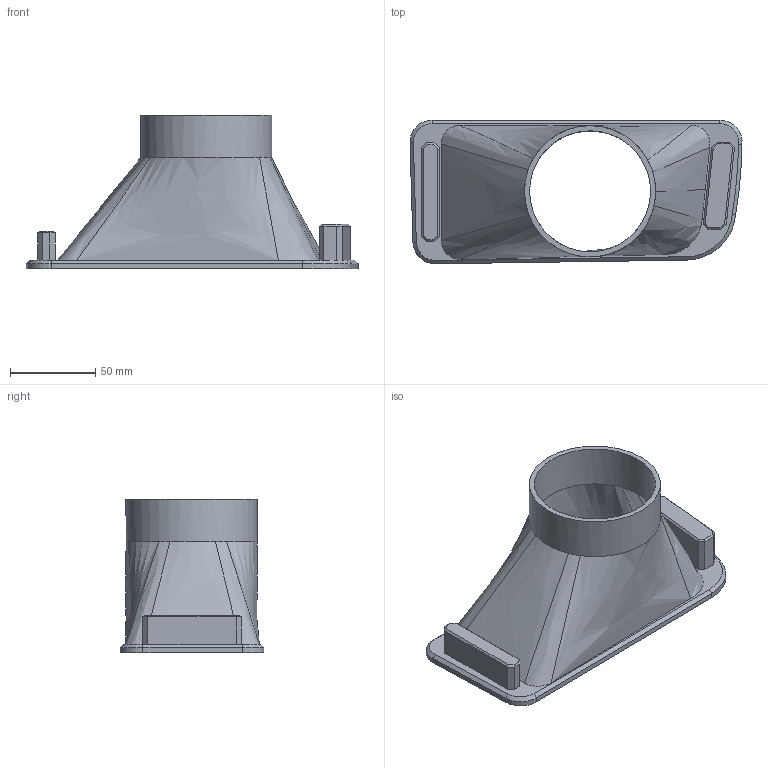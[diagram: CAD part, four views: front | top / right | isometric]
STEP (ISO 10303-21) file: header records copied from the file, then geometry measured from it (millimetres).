
FILE_DESCRIPTION(('FreeCAD Model'),'2;1');
FILE_NAME('Open CASCADE Shape Model','2022-10-20T18:22:57',('Author'),( ''),'Open CASCADE STEP processor 7.5','FreeCAD','Unknown');
FILE_SCHEMA(('AUTOMOTIVE_DESIGN { 1 0 10303 214 1 1 1 1 }'));
Length unit declared in the file: millimetre
Products named in the file (2): Part; Body
Assembly tree (1 placements, depth 2):
  Part
    Body
Bounding box: 194.82 x 84.3 x 90 mm (x, y, z)
Volume: 124930.3 mm3; surface area: 72851.4 mm2
Topology: 1 solids, 1 shells, 81 faces, 194 edges, 118 vertices
Faces by surface type: plane 47, bspline 18, cylinder 11, cone 5
Full cylindrical faces by diameter (mm): 71 x1, 77 x1
Entity records: 5067 total; most frequent: CARTESIAN_POINT 1113, DIRECTION 720, LINE 476, VECTOR 476, ORIENTED_EDGE 388, PCURVE 388, DEFINITIONAL_REPRESENTATION 388, EDGE_CURVE 194
